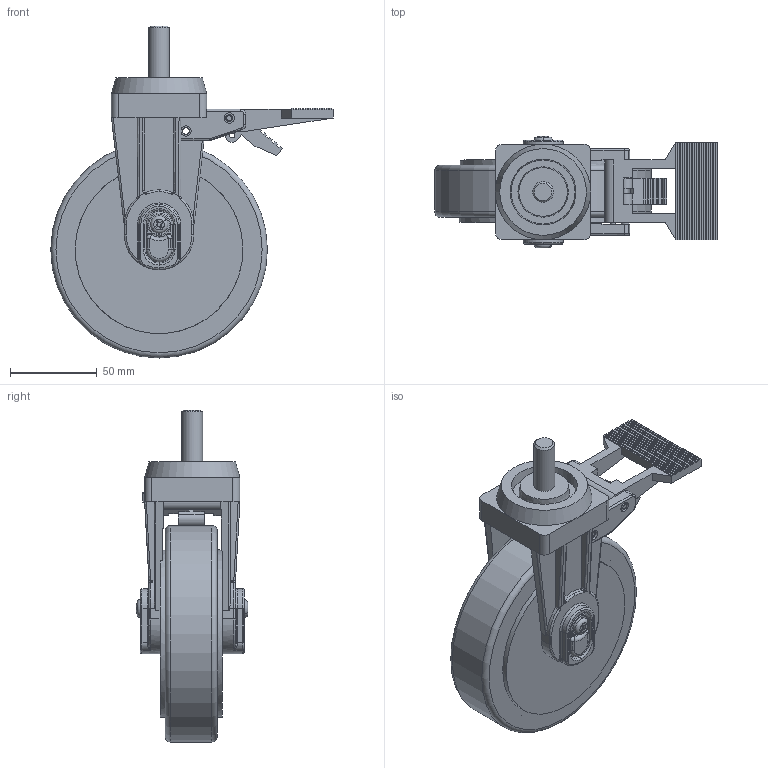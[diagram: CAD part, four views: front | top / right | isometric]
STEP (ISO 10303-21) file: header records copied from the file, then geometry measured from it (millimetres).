
FILE_DESCRIPTION((''),'2;1');
FILE_NAME('C:\Documents and Settings\Administrator\바탕 화면\2011년도\도면 및 견적서 발송\지덕 전체도면\3D도면\GDC\GDC-125-BRS\GDC-125 BRS.stp','2012-02-03T09:23:13',('Administrator'),(''),'Autodesk Inventor 2009','Autodesk Inventor 2009','');
FILE_SCHEMA(('AUTOMOTIVE_DESIGN { 1 0 10303 214 1 1 1 1 }'));
Length unit declared in the file: millimetre
Products named in the file (1): GDC-125 BRS
Bounding box: 163 x 64.47 x 191.6 mm (x, y, z)
Volume: 397775 mm3; surface area: 135910.6 mm2
Topology: 1 solids, 5 shells, 804 faces, 2045 edges, 1286 vertices
Faces by surface type: plane 290, cylinder 240, bspline 123, torus 86, cone 61, sphere 4
Full cylindrical faces by diameter (mm): 3 x6, 4.5 x2, 12 x1, 18 x1, 87.822 x2, 96.74 x2, 124.998 x1
Entity records: 29031 total; most frequent: CARTESIAN_POINT 9910, DIRECTION 4045, ORIENTED_EDGE 3926, EDGE_CURVE 1963, AXIS2_PLACEMENT_3D 1536, VERTEX_POINT 1264, VECTOR 973, LINE 973
